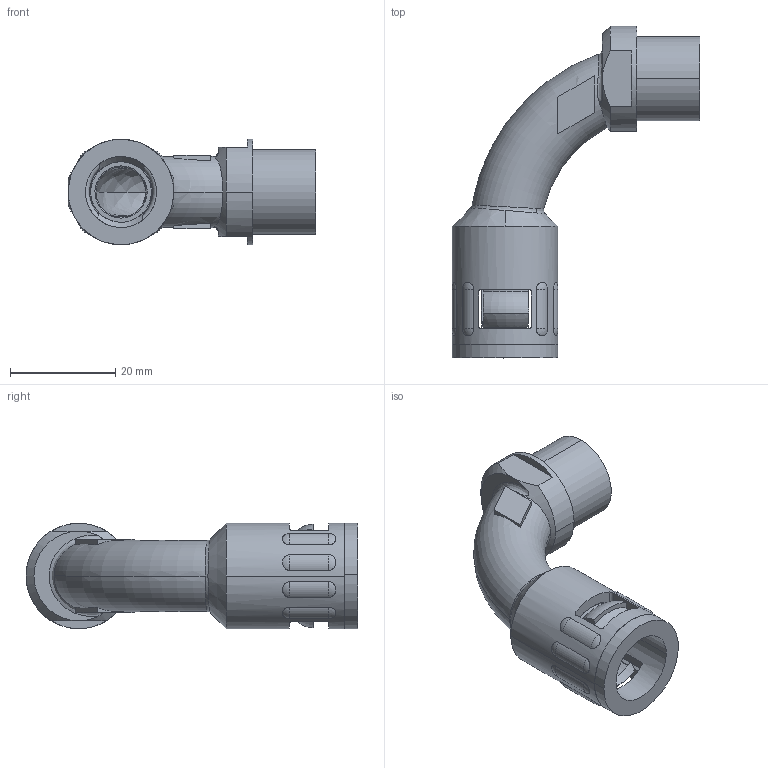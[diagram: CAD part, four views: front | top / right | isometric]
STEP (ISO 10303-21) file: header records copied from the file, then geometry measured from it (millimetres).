
FILE_DESCRIPTION (( 'STEP AP203' ), '1' );
FILE_NAME ('WQBW-M16-AD13.0.STEP', '2019-11-18T05:41:50', ( '' ), ( '' ), 'SwSTEP 2.0', 'SolidWorks 2016', '' );
FILE_SCHEMA (( 'CONFIG_CONTROL_DESIGN' ));
Length unit declared in the file: millimetre
Products named in the file (4): NSK-AD13.0; WQBW-M16-AD13.0-01; WQBW-M16-AD13.0; GFD-AD13.0
Assembly tree (3 placements, depth 2):
  WQBW-M16-AD13.0
    WQBW-M16-AD13.0-01
    GFD-AD13.0
    NSK-AD13.0
Bounding box: 47.05 x 63 x 20 mm (x, y, z)
Volume: 8613.3 mm3; surface area: 9800.1 mm2
Topology: 2 solids, 5 shells, 183 faces, 470 edges, 291 vertices
Faces by surface type: plane 53, cone 46, cylinder 36, torus 23, sphere 16, bspline 9
Entity records: 7986 total; most frequent: CARTESIAN_POINT 3382, DIRECTION 882, ORIENTED_EDGE 868, EDGE_CURVE 438, AXIS2_PLACEMENT_3D 362, VERTEX_POINT 275, EDGE_LOOP 209, FACE_OUTER_BOUND 183
